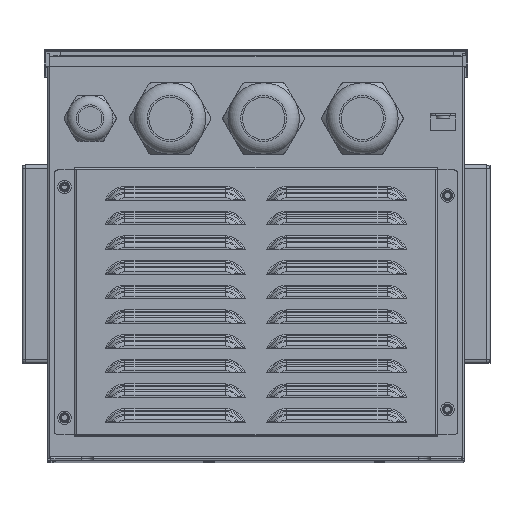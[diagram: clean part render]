
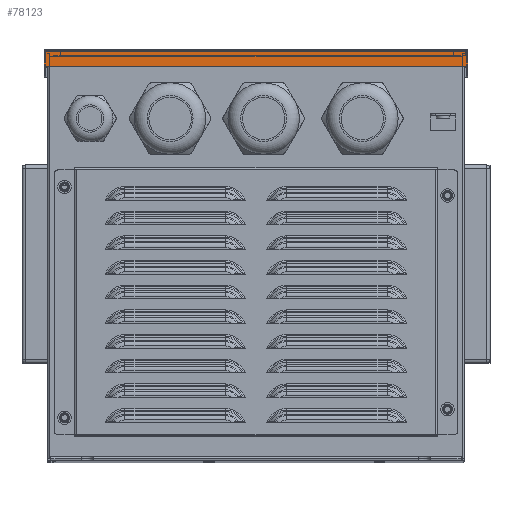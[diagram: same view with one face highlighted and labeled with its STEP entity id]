
A CAD part, top view. The second image highlights one B-rep face of the part: STEP entity #78123.
In plain terms, the highlighted planar face has unit normal (0, 0, 1).
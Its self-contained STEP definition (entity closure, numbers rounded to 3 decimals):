
#11736=FACE_OUTER_BOUND('',#16094,.T.);
#16094=EDGE_LOOP('',(#59902,#59903,#59904,#59905));
#22013=LINE('',#114067,#29581);
#22016=LINE('',#114072,#29584);
#22017=LINE('',#114074,#29585);
#22018=LINE('',#114075,#29586);
#29581=VECTOR('',#94193,8.8);
#29584=VECTOR('',#94198,249.);
#29585=VECTOR('',#94199,8.8);
#29586=VECTOR('',#94200,249.);
#38648=VERTEX_POINT('',#114065);
#38649=VERTEX_POINT('',#114066);
#38650=VERTEX_POINT('',#114071);
#38651=VERTEX_POINT('',#114073);
#46382=EDGE_CURVE('',#38648,#38649,#22013,.T.);
#46385=EDGE_CURVE('',#38649,#38650,#22016,.T.);
#46386=EDGE_CURVE('',#38650,#38651,#22017,.T.);
#46387=EDGE_CURVE('',#38651,#38648,#22018,.T.);
#59902=ORIENTED_EDGE('',*,*,#46382,.T.);
#59903=ORIENTED_EDGE('',*,*,#46385,.T.);
#59904=ORIENTED_EDGE('',*,*,#46386,.T.);
#59905=ORIENTED_EDGE('',*,*,#46387,.T.);
#75347=PLANE('',#83781);
#78123=ADVANCED_FACE('',(#11736),#75347,.T.);
#83781=AXIS2_PLACEMENT_3D('',#114070,#94196,#94197);
#94193=DIRECTION('',(0.,-1.,0.));
#94196=DIRECTION('center_axis',(0.,0.,1.));
#94197=DIRECTION('ref_axis',(-1.,0.,0.));
#94198=DIRECTION('',(1.,0.,0.));
#94199=DIRECTION('',(0.,1.,0.));
#94200=DIRECTION('',(-1.,0.,0.));
#114065=CARTESIAN_POINT('',(-162.,224.6,320.));
#114066=CARTESIAN_POINT('',(-162.,215.8,320.));
#114067=CARTESIAN_POINT('',(-162.,224.6,320.));
#114070=CARTESIAN_POINT('Origin',(-162.,225.8,320.));
#114071=CARTESIAN_POINT('',(87.,215.8,320.));
#114072=CARTESIAN_POINT('',(-162.,215.8,320.));
#114073=CARTESIAN_POINT('',(87.,224.6,320.));
#114074=CARTESIAN_POINT('',(87.,215.8,320.));
#114075=CARTESIAN_POINT('',(87.,224.6,320.));
